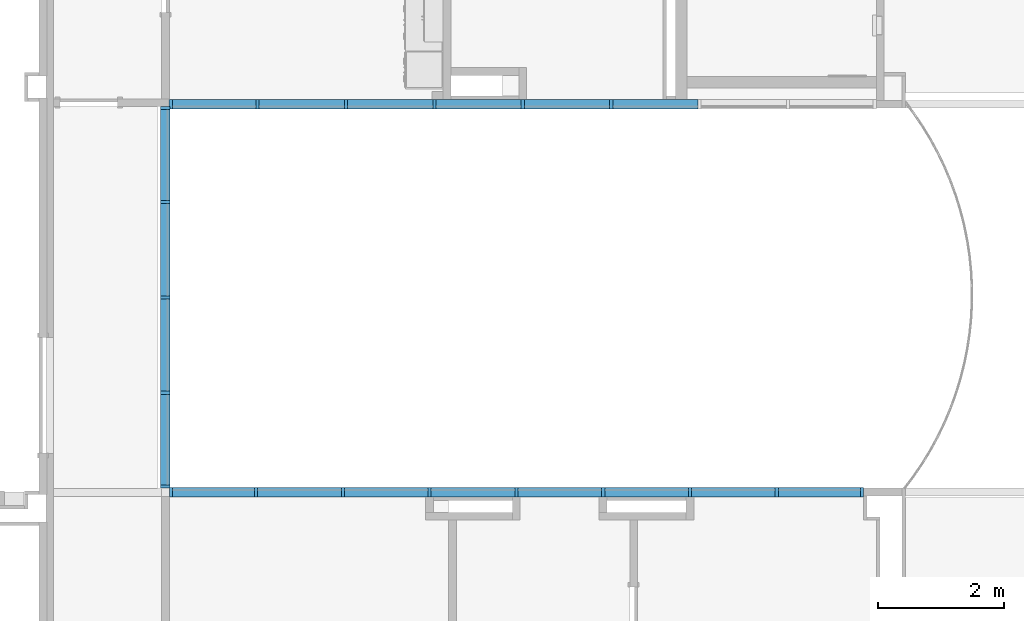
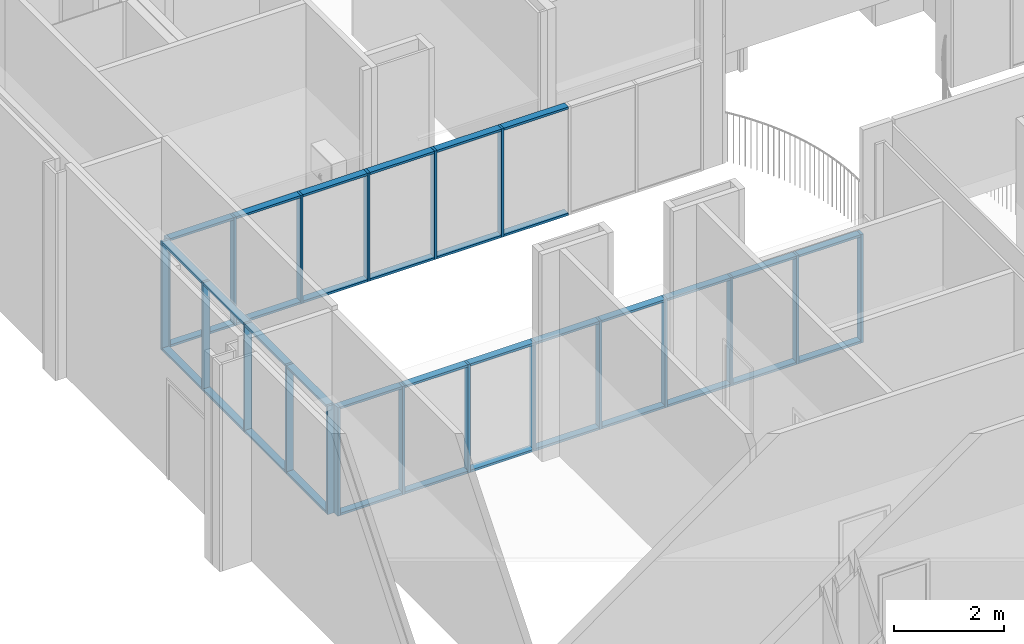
# One storey, part 1 of 47: 56 members, 3 elements without a shape of their own.
"""IFC2X3 building model written with IfcOpenShell, lengths in metres."""

import ifcopenshell
import ifcopenshell.guid

model = None  # the IFC model being written
_history = None  # IfcOwnerHistory: only IFC2X3 demands one
_inside = {}  # id of a spatial element -> (the spatial element, [elements in it])
_under = {}  # id of a project, library or spatial element -> (it, [spatial elements below it])
_declared = {}  # id of a project -> (the project, [libraries it declares])
_typed = {}  # id of a type object -> (the type object, [elements of that type])
_made_of = {}  # id of a material, layer set ... -> (it, [elements and type objects made of it])


def new_model(schema):
    """Start an empty IFC model of exactly this schema.

    Asked for "IFC4X3", IfcOpenShell would pick the latest addendum, in which some entities
    have other attributes; the version numbers below select the first issue.
    IFC2X3 requires an IfcOwnerHistory on every rooted entity: one is made here for all.
    """
    global model, _history
    if schema == "IFC4X3":
        model = ifcopenshell.file(schema_version=(4, 3, 0, 0))
    else:
        model = ifcopenshell.file(schema=schema)
    _inside.clear()
    _under.clear()
    _declared.clear()
    _typed.clear()
    _made_of.clear()
    _history = None
    if model.schema == "IFC2X3":
        org = make("IfcOrganization", Name="unknown")
        user = make(
            "IfcPersonAndOrganization",
            ThePerson=make("IfcPerson", FamilyName="unknown"),
            TheOrganization=org,
        )
        app = make(
            "IfcApplication",
            ApplicationDeveloper=org,
            Version="unknown",
            ApplicationFullName="unknown",
            ApplicationIdentifier="unknown",
        )
        _history = make(
            "IfcOwnerHistory",
            OwningUser=user,
            OwningApplication=app,
            ChangeAction="ADDED",
            CreationDate=0,
        )
    return model


def make(cls, **values):
    """One entity of the class cls with the attributes given. An attribute that is None is left unset."""
    return model.create_entity(
        cls, **{name: value for name, value in values.items() if value is not None}
    )


def entity(cls, *values):
    """Any entity or typed value of the class cls, its attributes in the order of the schema. None: left unset."""
    e = model.create_entity(cls)
    for i, value in enumerate(values):
        if value is not None:
            e[i] = value
    return e


def rooted(cls, **values):
    """An entity with a GlobalId (a new one), such as an element, a storey or a relation."""
    return make(cls, GlobalId=ifcopenshell.guid.new(), OwnerHistory=_history, **values)


def si_unit(unit_type, name, prefix=None):
    """IfcSIUnit, for example si_unit("LENGTHUNIT", "METRE", prefix="MILLI")."""
    return make("IfcSIUnit", UnitType=unit_type, Prefix=prefix, Name=name)


def converted_unit(unit_type, name, factor, base, dimensions=None, offset=None):
    """IfcConversionBasedUnit, such as the inch: factor (a typed value) times the base unit."""
    return make(
        "IfcConversionBasedUnit"
        if offset is None
        else "IfcConversionBasedUnitWithOffset",
        ConversionOffset=offset,
        Dimensions=None
        if dimensions is None
        else entity("IfcDimensionalExponents", *dimensions),
        UnitType=unit_type,
        Name=name,
        ConversionFactor=make(
            "IfcMeasureWithUnit", ValueComponent=factor, UnitComponent=base
        ),
    )


def assignment(units):
    """IfcUnitAssignment: the units of a project."""
    return None if units is None else make("IfcUnitAssignment", Units=units)


def point(xyz):
    """IfcCartesianPoint."""
    return None if xyz is None else make("IfcCartesianPoint", Coordinates=xyz)


def direction(xyz):
    """IfcDirection."""
    return None if xyz is None else make("IfcDirection", DirectionRatios=xyz)


def frame(location, z_axis=None, x_axis=None):
    """IfcAxis2Placement3D, a coordinate frame: its origin and axes. An axis left out is left unset."""
    return make(
        "IfcAxis2Placement3D",
        Location=point(location),
        Axis=direction(z_axis),
        RefDirection=direction(x_axis),
    )


def frame_2d(location, x_axis=None):
    """IfcAxis2Placement2D, a coordinate frame in the plane: its origin and x axis."""
    return make(
        "IfcAxis2Placement2D", Location=point(location), RefDirection=direction(x_axis)
    )


def origin():
    """The frame at (0, 0, 0) with its axes left unset."""
    return frame((0.0, 0.0, 0.0))


def origin_2d_with_axis():
    """The frame at (0, 0) in the plane with the x axis (1, 0) written out."""
    return frame_2d((0.0, 0.0), x_axis=(1.0, 0.0))


def place(relative_to, where):
    """IfcLocalPlacement: puts the frame where relative to a parent placement (None: the world)."""
    return make(
        "IfcLocalPlacement", PlacementRelTo=relative_to, RelativePlacement=where
    )


def context(
    kind, dimensions, precision=None, world=None, true_north=None, identifier=None
):
    """IfcGeometricRepresentationContext, for example the 3D "Model" context."""
    return make(
        "IfcGeometricRepresentationContext",
        ContextIdentifier=identifier,
        ContextType=kind,
        CoordinateSpaceDimension=dimensions,
        Precision=precision,
        WorldCoordinateSystem=world,
        TrueNorth=true_north,
    )


def project(units=None, contexts=None):
    """IfcProject with its units and contexts."""
    return rooted(
        "IfcProject",
        Name="project",
        RepresentationContexts=contexts,
        UnitsInContext=assignment(units),
    )


def spatial(cls, under=None, at=None, **own):
    """A site, building, storey or space (cls), placed at a placement, below another one or the project."""
    s = rooted(cls, ObjectPlacement=at, **own)
    if under is not None:
        _under.setdefault(under.id(), (under, []))[1].append(s)
    return s


def profile(cls, at=None, kind="AREA", **sizes):
    """A parametric profile (cls). Its sizes go by their IFC names, for example OverallWidth=200.0."""
    return make(cls, ProfileType=kind, Position=at, **sizes)


def rectangle(**sizes):
    """IfcRectangleProfileDef."""
    return profile("IfcRectangleProfileDef", **sizes)


def extrude(swept, where, along, depth):
    """IfcExtrudedAreaSolid: the profile swept, set in the frame where, extruded along a direction by depth."""
    return make(
        "IfcExtrudedAreaSolid",
        SweptArea=swept,
        Position=where,
        ExtrudedDirection=direction(along),
        Depth=depth,
    )


def shape(context_of_items, identifier, shape_type, items):
    """IfcShapeRepresentation: the items that make up one representation, for example the "Body"."""
    return make(
        "IfcShapeRepresentation",
        ContextOfItems=context_of_items,
        RepresentationIdentifier=identifier,
        RepresentationType=shape_type,
        Items=items,
    )


def source(mapping_origin, context_of_items, identifier, shape_type, items):
    """IfcRepresentationMap: a shape defined once, which mapped items show again and again."""
    return make(
        "IfcRepresentationMap",
        MappingOrigin=mapping_origin,
        MappedRepresentation=shape(context_of_items, identifier, shape_type, items),
    )


def transform(
    local_origin,
    x_axis=None,
    y_axis=None,
    z_axis=None,
    scale=None,
    scale2=None,
    scale3=None,
    uniform=True,
):
    """IfcCartesianTransformationOperator3D, or its non-uniform kind. x_axis, y_axis, z_axis: its Axis1, 2, 3."""
    if uniform:
        return make(
            "IfcCartesianTransformationOperator3D",
            Axis1=direction(x_axis),
            Axis2=direction(y_axis),
            LocalOrigin=point(local_origin),
            Scale=scale,
            Axis3=direction(z_axis),
        )
    return make(
        "IfcCartesianTransformationOperator3DnonUniform",
        Axis1=direction(x_axis),
        Axis2=direction(y_axis),
        LocalOrigin=point(local_origin),
        Scale=scale,
        Axis3=direction(z_axis),
        Scale2=scale2,
        Scale3=scale3,
    )


def mapped(mapping_source, mapping_target):
    """IfcMappedItem: shows the shape of a source again, moved by a transform."""
    return make(
        "IfcMappedItem", MappingSource=mapping_source, MappingTarget=mapping_target
    )


def material(Name=None, Category=None):
    """IfcMaterial."""
    return make("IfcMaterial", Name=Name, Category=Category)


def made_of(thing, what):
    """Note that an element or type object is made of a material, layer set ...; save() writes the relation."""
    if what is not None:
        _made_of.setdefault(what.id(), (what, []))[1].append(thing)
    return thing


def type_object(cls, material=None, **own):
    """A type object (cls), such as IfcWallType, which elements share."""
    return made_of(rooted(cls, **own), material)


def type_shapes(of_type, sources):
    """Give a type object the sources (RepresentationMaps) that its elements show as mapped items."""
    of_type.RepresentationMaps = sources


def element(
    cls,
    number,
    at=None,
    inside=None,
    cuts=None,
    type_object=None,
    material=None,
    context=None,
    identifier="Body",
    shape_type=None,
    held_by="IfcProductDefinitionShape",
    body=None,
    shapes=None,
    **own,
):
    """One element of the class cls, such as IfcWall. Its Tag is "e" and its number.

    at: its placement. inside: the storey or other place that contains it. cuts: it is an
    opening in that element (IfcRelVoidsElement). A single representation is given by context,
    identifier, shape_type and body (its items); several are given by shapes. held_by: the class
    of the entity that holds the representations. save() writes the other relations.
    """
    e = rooted(cls, Tag="e%d" % number, ObjectPlacement=at, **own)
    if body is not None:
        shapes = [shape(context, identifier, shape_type, body)]
    if shapes is not None:
        e.Representation = make(held_by, Representations=shapes)
    if inside is not None:
        _inside.setdefault(inside.id(), (inside, []))[1].append(e)
    if cuts is not None:
        rooted(
            "IfcRelVoidsElement", RelatingBuildingElement=cuts, RelatedOpeningElement=e
        )
    if type_object is not None:
        _typed.setdefault(type_object.id(), (type_object, []))[1].append(e)
    return made_of(e, material)


def aggregate(whole, parts):
    """IfcRelAggregates: a whole, such as a stair, and the parts it consists of."""
    return rooted("IfcRelAggregates", RelatingObject=whole, RelatedObjects=parts)


def save(model, path):
    """Write the relations noted so far, then the file.

    IfcRelAggregates (storeys below a building ...), IfcRelContainedInSpatialStructure (elements
    in a storey), IfcRelDefinesByType, IfcRelAssociatesMaterial and IfcRelDeclares: one each for
    every whole, place, type object, material and project.
    """
    for whole, parts in _under.values():
        aggregate(whole, parts)
    for where, things in _inside.values():
        rooted(
            "IfcRelContainedInSpatialStructure",
            RelatedElements=things,
            RelatingStructure=where,
        )
    for kind, things in _typed.values():
        rooted("IfcRelDefinesByType", RelatedObjects=things, RelatingType=kind)
    for what, things in _made_of.values():
        rooted("IfcRelAssociatesMaterial", RelatedObjects=things, RelatingMaterial=what)
    for by, libraries in _declared.values():
        rooted("IfcRelDeclares", RelatingContext=by, RelatedDefinitions=libraries)
    model.write(path)


model = new_model("IFC2X3")

# Units and contexts
model_context = context("Model", 3, precision=1e-09, world=origin())
plan_context = context("Plan", 3, precision=1e-09, world=origin())
ifc_project = project(units=[si_unit("LENGTHUNIT", "METRE"), si_unit("AREAUNIT", "SQUARE_METRE"), si_unit("VOLUMEUNIT", "CUBIC_METRE"), converted_unit("PLANEANGLEUNIT", "DEGREE", entity("IfcRatioMeasure", 0.01745329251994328), si_unit("PLANEANGLEUNIT", "RADIAN"), dimensions=[0, 0, 0, 0, 0, 0, 0]), si_unit("TIMEUNIT", "SECOND")], contexts=[model_context, plan_context])

# Site, building, storey
site_placement = place(None, origin())
site = spatial("IfcSite", under=ifc_project, at=site_placement, Name="Default", CompositionType="ELEMENT")
building_placement = place(site_placement, origin())
building = spatial("IfcBuilding", under=site, at=building_placement, CompositionType="ELEMENT")
storey_placement = place(building_placement, frame((0.0, 0.0, 4.570000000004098)))
storey = spatial("IfcBuildingStorey", under=building, at=storey_placement, Name="Second Floor", CompositionType="ELEMENT", Elevation=4.570000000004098)

# Curtain wall, members
curtain_wall_1_placement = place(storey_placement, origin())
curtain_wall_1 = element("IfcCurtainWall", 1, at=curtain_wall_1_placement, inside=storey, Name="Curtain Wall:Storefront", ObjectType="Curtain Wall:Storefront")
ifc_material = material(Name="Metal - Aluminium")
member_type_1 = type_object("IfcMemberType", Name="50 x 150mm", PredefinedType="MULLION")
shared_shape_1 = source(origin(), model_context, "Body", "SweptSolid", [
    extrude(rectangle(XDim=0.05, YDim=0.15, at=origin_2d_with_axis()), frame((-0.025, 0.0, -1.436041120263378), z_axis=(0.0, 0.0, 1.0), x_axis=(-1.0, 0.0, 0.0)), (0.0, 0.0, 1.0), 1.436041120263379),
])
type_shapes(member_type_1, [shared_shape_1])
member_1_placement = place(storey_placement, frame((-31.55100000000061, 28.74019840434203, 2.399999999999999), z_axis=(0.0, -1.0, 0.0), x_axis=(0.0, 0.0, 1.0)))
member_1 = element("IfcMember", 2, at=member_1_placement, type_object=member_type_1, material=ifc_material, Name="Rectangular Mullion:50 x 150mm:50 x 150mm", ObjectType="50 x 150mm", context=model_context, shape_type="MappedRepresentation", body=[
    mapped(shared_shape_1, transform((0.0, 0.0, 0.0), scale=1.0)),
])
member_2_placement = place(storey_placement, frame((-31.55100000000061, 33.24832176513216, 2.399999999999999), z_axis=(0.0, -1.0, 0.0), x_axis=(0.0, 0.0, 1.0)))
member_2 = element("IfcMember", 3, at=member_2_placement, type_object=member_type_1, material=ifc_material, Name="Rectangular Mullion:50 x 150mm:50 x 150mm", ObjectType="50 x 150mm", context=model_context, shape_type="MappedRepresentation", body=[
    mapped(shared_shape_1, transform((0.0, 0.0, 0.0), scale=1.0)),
])
member_type_2 = type_object("IfcMemberType", Name="50 x 150mm", PredefinedType="MULLION")
shared_shape_2 = source(origin(), model_context, "Body", "SweptSolid", [
    extrude(rectangle(XDim=0.05, YDim=0.15, at=origin_2d_with_axis()), frame((-0.025, 0.0, -1.436041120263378), z_axis=(0.0, 0.0, 1.0), x_axis=(-1.0, 0.0, 0.0)), (0.0, 0.0, 1.0), 1.436041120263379),
])
type_shapes(member_type_2, [shared_shape_2])
member_3_placement = place(storey_placement, frame((-31.5510000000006, 34.68436288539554, 0.0), z_axis=(0.0, 1.0, 0.0), x_axis=(0.0, 0.0, -1.0)))
member_3 = element("IfcMember", 4, at=member_3_placement, type_object=member_type_2, material=ifc_material, Name="Rectangular Mullion:50 x 150mm:50 x 150mm", ObjectType="50 x 150mm", context=model_context, shape_type="MappedRepresentation", body=[
    mapped(shared_shape_2, transform((0.0, 0.0, 0.0), scale=1.0)),
])
member_4_placement = place(storey_placement, frame((-31.55100000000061, 30.17623952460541, 0.0), z_axis=(0.0, 1.0, 0.0), x_axis=(0.0, 0.0, -1.0)))
member_4 = element("IfcMember", 5, at=member_4_placement, type_object=member_type_2, material=ifc_material, Name="Rectangular Mullion:50 x 150mm:50 x 150mm", ObjectType="50 x 150mm", context=model_context, shape_type="MappedRepresentation", body=[
    mapped(shared_shape_2, transform((0.0, 0.0, 0.0), scale=1.0)),
])
member_type_3 = type_object("IfcMemberType", Name="50 x 150mm", PredefinedType="MULLION")
shared_shape_3 = source(origin(), model_context, "Body", "SweptSolid", [
    extrude(rectangle(XDim=0.05, YDim=0.15, at=origin_2d_with_axis()), frame((-0.025, 0.0, -2.399999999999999), z_axis=(0.0, 0.0, 1.0), x_axis=(-1.0, 0.0, 0.0)), (0.0, 0.0, 1.0), 2.399999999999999),
])
type_shapes(member_type_3, [shared_shape_3])
member_5_placement = place(storey_placement, frame((-31.55100000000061, 28.69019840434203, 0.0), z_axis=(0.0, 0.0, -1.0), x_axis=(0.0, -1.0, 0.0)))
member_5 = element("IfcMember", 6, at=member_5_placement, type_object=member_type_3, material=ifc_material, Name="Rectangular Mullion:50 x 150mm:50 x 150mm", ObjectType="50 x 150mm", context=model_context, shape_type="MappedRepresentation", body=[
    mapped(shared_shape_3, transform((0.0, 0.0, 0.0), scale=1.0)),
])

# Curtain wall, member
curtain_wall_2_placement = place(storey_placement, origin())
curtain_wall_2 = element("IfcCurtainWall", 7, at=curtain_wall_2_placement, inside=storey, Name="Curtain Wall:Storefront", ObjectType="Curtain Wall:Storefront")
member_6_placement = place(storey_placement, frame((-31.48900000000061, 34.77180159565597, 0.0), z_axis=(0.0, 0.0, -1.0), x_axis=(-1.0, 0.0, 0.0)))
member_6 = element("IfcMember", 8, at=member_6_placement, type_object=member_type_3, material=ifc_material, Name="Rectangular Mullion:50 x 150mm:50 x 150mm", ObjectType="50 x 150mm", context=model_context, shape_type="MappedRepresentation", body=[
    mapped(shared_shape_3, transform((0.0, 0.0, 0.0), scale=1.0)),
])

# Member
member_type_4 = type_object("IfcMemberType", Name="50 x 150mm", PredefinedType="MULLION")
shared_shape_4 = source(origin(), model_context, "Body", "SweptSolid", [
    extrude(rectangle(XDim=0.05, YDim=0.15, at=origin_2d_with_axis()), frame((-0.025, 0.0, -2.399999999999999), z_axis=(0.0, 0.0, 1.0), x_axis=(-1.0, 0.0, 0.0)), (0.0, 0.0, 1.0), 2.399999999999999),
])
type_shapes(member_type_4, [shared_shape_4])
member_7_placement = place(storey_placement, frame((-31.5510000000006, 34.73436288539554, 2.399999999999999), z_axis=(0.0, 0.0, 1.0), x_axis=(0.0, 1.0, 0.0)))
member_7 = element("IfcMember", 9, at=member_7_placement, type_object=member_type_4, material=ifc_material, Name="Rectangular Mullion:50 x 150mm:50 x 150mm", ObjectType="50 x 150mm", context=model_context, shape_type="MappedRepresentation", body=[
    mapped(shared_shape_4, transform((0.0, 0.0, 0.0), scale=1.0)),
])

member_type_5 = type_object("IfcMemberType", Name="50 x 150mm", PredefinedType="MULLION")
shared_shape_5 = source(origin(), model_context, "Body", "SweptSolid", [
    extrude(rectangle(XDim=0.05, YDim=0.15, at=origin_2d_with_axis()), frame((-0.025, 0.0, -1.461041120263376), z_axis=(0.0, 0.0, 1.0), x_axis=(-1.0, 0.0, 0.0)), (0.0, 0.0, 1.0), 1.461041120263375),
])
type_shapes(member_type_5, [shared_shape_5])
member_8_placement = place(storey_placement, frame((-31.55100000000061, 31.73728064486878, 2.399999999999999), z_axis=(0.0, -1.0, 0.0), x_axis=(0.0, 0.0, 1.0)))
member_8 = element("IfcMember", 10, at=member_8_placement, type_object=member_type_5, material=ifc_material, Name="Rectangular Mullion:50 x 150mm:50 x 150mm", ObjectType="50 x 150mm", context=model_context, shape_type="MappedRepresentation", body=[
    mapped(shared_shape_5, transform((0.0, 0.0, 0.0), scale=1.0)),
])

member_9_placement = place(storey_placement, frame((-31.55100000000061, 30.2262395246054, 2.399999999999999), z_axis=(0.0, -1.0, 0.0), x_axis=(0.0, 0.0, 1.0)))
member_9 = element("IfcMember", 11, at=member_9_placement, type_object=member_type_5, material=ifc_material, Name="Rectangular Mullion:50 x 150mm:50 x 150mm", ObjectType="50 x 150mm", context=model_context, shape_type="MappedRepresentation", body=[
    mapped(shared_shape_5, transform((0.0, 0.0, 0.0), scale=1.0)),
])

member_type_6 = type_object("IfcMemberType", Name="50 x 150mm", PredefinedType="MULLION")
shared_shape_6 = source(origin(), model_context, "Body", "SweptSolid", [
    extrude(rectangle(XDim=0.05, YDim=0.15, at=origin_2d_with_axis()), frame((-0.025, 0.0, -1.461041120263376), z_axis=(0.0, 0.0, 1.0), x_axis=(-1.0, 0.0, 0.0)), (0.0, 0.0, 1.0), 1.461041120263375),
])
type_shapes(member_type_6, [shared_shape_6])
member_10_placement = place(storey_placement, frame((-31.55100000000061, 33.19832176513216, 0.0), z_axis=(0.0, 1.0, 0.0), x_axis=(0.0, 0.0, -1.0)))
member_10 = element("IfcMember", 12, at=member_10_placement, type_object=member_type_6, material=ifc_material, Name="Rectangular Mullion:50 x 150mm:50 x 150mm", ObjectType="50 x 150mm", context=model_context, shape_type="MappedRepresentation", body=[
    mapped(shared_shape_6, transform((0.0, 0.0, 0.0), scale=1.0)),
])

member_11_placement = place(storey_placement, frame((-31.55100000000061, 31.68728064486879, 0.0), z_axis=(0.0, 1.0, 0.0), x_axis=(0.0, 0.0, -1.0)))
member_11 = element("IfcMember", 13, at=member_11_placement, type_object=member_type_6, material=ifc_material, Name="Rectangular Mullion:50 x 150mm:50 x 150mm", ObjectType="50 x 150mm", context=model_context, shape_type="MappedRepresentation", body=[
    mapped(shared_shape_6, transform((0.0, 0.0, 0.0), scale=1.0)),
])

member_type_7 = type_object("IfcMemberType", Name="50 x 150mm", PredefinedType="MULLION")
shared_shape_7 = source(origin(), model_context, "Body", "SweptSolid", [
    extrude(rectangle(XDim=0.05, YDim=0.15, at=origin_2d_with_axis()), frame((0.0, 0.0, -2.399999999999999), z_axis=(0.0, 0.0, 1.0), x_axis=(-1.0, 0.0, 0.0)), (0.0, 0.0, 1.0), 2.399999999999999),
])
type_shapes(member_type_7, [shared_shape_7])
member_12_placement = place(storey_placement, frame((-31.55100000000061, 33.22332176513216, 0.0), z_axis=(0.0, 0.0, -1.0), x_axis=(0.0, -1.0, 0.0)))
member_12 = element("IfcMember", 14, at=member_12_placement, type_object=member_type_7, material=ifc_material, Name="Rectangular Mullion:50 x 150mm:50 x 150mm", ObjectType="50 x 150mm", context=model_context, shape_type="MappedRepresentation", body=[
    mapped(shared_shape_7, transform((0.0, 0.0, 0.0), scale=1.0)),
])

member_13_placement = place(storey_placement, frame((-31.55100000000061, 31.71228064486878, 0.0), z_axis=(0.0, 0.0, -1.0), x_axis=(0.0, -1.0, 0.0)))
member_13 = element("IfcMember", 15, at=member_13_placement, type_object=member_type_7, material=ifc_material, Name="Rectangular Mullion:50 x 150mm:50 x 150mm", ObjectType="50 x 150mm", context=model_context, shape_type="MappedRepresentation", body=[
    mapped(shared_shape_7, transform((0.0, 0.0, 0.0), scale=1.0)),
])

member_14_placement = place(storey_placement, frame((-31.55100000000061, 30.20123952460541, 0.0), z_axis=(0.0, 0.0, -1.0), x_axis=(0.0, -1.0, 0.0)))
member_14 = element("IfcMember", 16, at=member_14_placement, type_object=member_type_7, material=ifc_material, Name="Rectangular Mullion:50 x 150mm:50 x 150mm", ObjectType="50 x 150mm", context=model_context, shape_type="MappedRepresentation", body=[
    mapped(shared_shape_7, transform((0.0, 0.0, 0.0), scale=1.0)),
])

aggregate(curtain_wall_1, [member_1, member_3, member_5, member_7, member_2, member_8, member_9, member_10, member_11, member_4, member_12, member_13, member_14])

member_15_placement = place(storey_placement, frame((-24.48962500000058, 34.77180159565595, 0.0), z_axis=(0.0, 0.0, -1.0), x_axis=(-1.0, 0.0, 0.0)))
member_15 = element("IfcMember", 17, at=member_15_placement, type_object=member_type_7, material=ifc_material, Name="Rectangular Mullion:50 x 150mm:50 x 150mm", ObjectType="50 x 150mm", context=model_context, shape_type="MappedRepresentation", body=[
    mapped(shared_shape_7, transform((0.0, 0.0, 0.0), scale=1.0)),
])

member_16_placement = place(storey_placement, frame((-25.88950000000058, 34.77180159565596, 0.0), z_axis=(0.0, 0.0, -1.0), x_axis=(-1.0, 0.0, 0.0)))
member_16 = element("IfcMember", 18, at=member_16_placement, type_object=member_type_7, material=ifc_material, Name="Rectangular Mullion:50 x 150mm:50 x 150mm", ObjectType="50 x 150mm", context=model_context, shape_type="MappedRepresentation", body=[
    mapped(shared_shape_7, transform((0.0, 0.0, 0.0), scale=1.0)),
])

member_17_placement = place(storey_placement, frame((-27.28937500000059, 34.77180159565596, 0.0), z_axis=(0.0, 0.0, -1.0), x_axis=(-1.0, 0.0, 0.0)))
member_17 = element("IfcMember", 19, at=member_17_placement, type_object=member_type_7, material=ifc_material, Name="Rectangular Mullion:50 x 150mm:50 x 150mm", ObjectType="50 x 150mm", context=model_context, shape_type="MappedRepresentation", body=[
    mapped(shared_shape_7, transform((0.0, 0.0, 0.0), scale=1.0)),
])

member_18_placement = place(storey_placement, frame((-28.6892500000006, 34.77180159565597, 0.0), z_axis=(0.0, 0.0, -1.0), x_axis=(-1.0, 0.0, 0.0)))
member_18 = element("IfcMember", 20, at=member_18_placement, type_object=member_type_7, material=ifc_material, Name="Rectangular Mullion:50 x 150mm:50 x 150mm", ObjectType="50 x 150mm", context=model_context, shape_type="MappedRepresentation", body=[
    mapped(shared_shape_7, transform((0.0, 0.0, 0.0), scale=1.0)),
])

member_19_placement = place(storey_placement, frame((-30.0891250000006, 34.77180159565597, 0.0), z_axis=(0.0, 0.0, -1.0), x_axis=(-1.0, 0.0, 0.0)))
member_19 = element("IfcMember", 21, at=member_19_placement, type_object=member_type_7, material=ifc_material, Name="Rectangular Mullion:50 x 150mm:50 x 150mm", ObjectType="50 x 150mm", context=model_context, shape_type="MappedRepresentation", body=[
    mapped(shared_shape_7, transform((0.0, 0.0, 0.0), scale=1.0)),
])

member_type_8 = type_object("IfcMemberType", Name="50 x 150mm", PredefinedType="MULLION")
shared_shape_8 = source(origin(), model_context, "Body", "SweptSolid", [
    extrude(rectangle(XDim=0.05, YDim=0.15, at=origin_2d_with_axis()), frame((-0.025, 0.0, -1.324875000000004), z_axis=(0.0, 0.0, 1.0), x_axis=(-1.0, 0.0, 0.0)), (0.0, 0.0, 1.0), 1.324875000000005),
])
type_shapes(member_type_8, [shared_shape_8])
member_20_placement = place(storey_placement, frame((-31.4390000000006, 34.77180159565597, 2.399999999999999), z_axis=(-1.0, 0.0, 0.0), x_axis=(0.0, 0.0, 1.0)))
member_20 = element("IfcMember", 22, at=member_20_placement, type_object=member_type_8, material=ifc_material, Name="Rectangular Mullion:50 x 150mm:50 x 150mm", ObjectType="50 x 150mm", context=model_context, shape_type="MappedRepresentation", body=[
    mapped(shared_shape_8, transform((0.0, 0.0, 0.0), scale=1.0)),
])

member_type_9 = type_object("IfcMemberType", Name="50 x 150mm", PredefinedType="MULLION")
shared_shape_9 = source(origin(), model_context, "Body", "SweptSolid", [
    extrude(rectangle(XDim=0.05, YDim=0.15, at=origin_2d_with_axis()), frame((-0.025, 0.0, -1.324875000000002), z_axis=(0.0, 0.0, 1.0), x_axis=(-1.0, 0.0, 0.0)), (0.0, 0.0, 1.0), 1.324875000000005),
])
type_shapes(member_type_9, [shared_shape_9])
member_21_placement = place(storey_placement, frame((-30.1141250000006, 34.77180159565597, 0.0), z_axis=(1.0, 0.0, 0.0), x_axis=(0.0, 0.0, -1.0)))
member_21 = element("IfcMember", 23, at=member_21_placement, type_object=member_type_9, material=ifc_material, Name="Rectangular Mullion:50 x 150mm:50 x 150mm", ObjectType="50 x 150mm", context=model_context, shape_type="MappedRepresentation", body=[
    mapped(shared_shape_9, transform((0.0, 0.0, 0.0), scale=1.0)),
])

member_type_10 = type_object("IfcMemberType", Name="50 x 150mm", PredefinedType="MULLION")
shared_shape_10 = source(origin(), model_context, "Body", "SweptSolid", [
    extrude(rectangle(XDim=0.05, YDim=0.15, at=origin_2d_with_axis()), frame((-0.025, 0.0, -1.349875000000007), z_axis=(0.0, 0.0, 1.0), x_axis=(-1.0, 0.0, 0.0)), (0.0, 0.0, 1.0), 1.349875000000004),
])
type_shapes(member_type_10, [shared_shape_10])
member_22_placement = place(storey_placement, frame((-24.46462500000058, 34.77180159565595, 2.399999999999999), z_axis=(-1.0, 0.0, 0.0), x_axis=(0.0, 0.0, 1.0)))
member_22 = element("IfcMember", 24, at=member_22_placement, type_object=member_type_10, material=ifc_material, Name="Rectangular Mullion:50 x 150mm:50 x 150mm", ObjectType="50 x 150mm", context=model_context, shape_type="MappedRepresentation", body=[
    mapped(shared_shape_10, transform((0.0, 0.0, 0.0), scale=1.0)),
])

member_23_placement = place(storey_placement, frame((-25.86450000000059, 34.77180159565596, 2.399999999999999), z_axis=(-1.0, 0.0, 0.0), x_axis=(0.0, 0.0, 1.0)))
member_23 = element("IfcMember", 25, at=member_23_placement, type_object=member_type_10, material=ifc_material, Name="Rectangular Mullion:50 x 150mm:50 x 150mm", ObjectType="50 x 150mm", context=model_context, shape_type="MappedRepresentation", body=[
    mapped(shared_shape_10, transform((0.0, 0.0, 0.0), scale=1.0)),
])

member_24_placement = place(storey_placement, frame((-27.26437500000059, 34.77180159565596, 2.399999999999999), z_axis=(-1.0, 0.0, 0.0), x_axis=(0.0, 0.0, 1.0)))
member_24 = element("IfcMember", 26, at=member_24_placement, type_object=member_type_10, material=ifc_material, Name="Rectangular Mullion:50 x 150mm:50 x 150mm", ObjectType="50 x 150mm", context=model_context, shape_type="MappedRepresentation", body=[
    mapped(shared_shape_10, transform((0.0, 0.0, 0.0), scale=1.0)),
])

member_25_placement = place(storey_placement, frame((-28.6642500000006, 34.77180159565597, 2.399999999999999), z_axis=(-1.0, 0.0, 0.0), x_axis=(0.0, 0.0, 1.0)))
member_25 = element("IfcMember", 27, at=member_25_placement, type_object=member_type_10, material=ifc_material, Name="Rectangular Mullion:50 x 150mm:50 x 150mm", ObjectType="50 x 150mm", context=model_context, shape_type="MappedRepresentation", body=[
    mapped(shared_shape_10, transform((0.0, 0.0, 0.0), scale=1.0)),
])

member_26_placement = place(storey_placement, frame((-30.0641250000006, 34.77180159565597, 2.399999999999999), z_axis=(-1.0, 0.0, 0.0), x_axis=(0.0, 0.0, 1.0)))
member_26 = element("IfcMember", 28, at=member_26_placement, type_object=member_type_10, material=ifc_material, Name="Rectangular Mullion:50 x 150mm:50 x 150mm", ObjectType="50 x 150mm", context=model_context, shape_type="MappedRepresentation", body=[
    mapped(shared_shape_10, transform((0.0, 0.0, 0.0), scale=1.0)),
])

member_type_11 = type_object("IfcMemberType", Name="50 x 150mm", PredefinedType="MULLION")
shared_shape_11 = source(origin(), model_context, "Body", "SweptSolid", [
    extrude(rectangle(XDim=0.05, YDim=0.15, at=origin_2d_with_axis()), frame((-0.025, 0.0, -1.349875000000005), z_axis=(0.0, 0.0, 1.0), x_axis=(-1.0, 0.0, 0.0)), (0.0, 0.0, 1.0), 1.349875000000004),
])
type_shapes(member_type_11, [shared_shape_11])
member_27_placement = place(storey_placement, frame((-23.11475000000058, 34.77180159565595, 0.0), z_axis=(1.0, 0.0, 0.0), x_axis=(0.0, 0.0, -1.0)))
member_27 = element("IfcMember", 29, at=member_27_placement, type_object=member_type_11, material=ifc_material, Name="Rectangular Mullion:50 x 150mm:50 x 150mm", ObjectType="50 x 150mm", context=model_context, shape_type="MappedRepresentation", body=[
    mapped(shared_shape_11, transform((0.0, 0.0, 0.0), scale=1.0)),
])

member_28_placement = place(storey_placement, frame((-24.51462500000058, 34.77180159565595, 0.0), z_axis=(1.0, 0.0, 0.0), x_axis=(0.0, 0.0, -1.0)))
member_28 = element("IfcMember", 30, at=member_28_placement, type_object=member_type_11, material=ifc_material, Name="Rectangular Mullion:50 x 150mm:50 x 150mm", ObjectType="50 x 150mm", context=model_context, shape_type="MappedRepresentation", body=[
    mapped(shared_shape_11, transform((0.0, 0.0, 0.0), scale=1.0)),
])

member_29_placement = place(storey_placement, frame((-25.91450000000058, 34.77180159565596, 0.0), z_axis=(1.0, 0.0, 0.0), x_axis=(0.0, 0.0, -1.0)))
member_29 = element("IfcMember", 31, at=member_29_placement, type_object=member_type_11, material=ifc_material, Name="Rectangular Mullion:50 x 150mm:50 x 150mm", ObjectType="50 x 150mm", context=model_context, shape_type="MappedRepresentation", body=[
    mapped(shared_shape_11, transform((0.0, 0.0, 0.0), scale=1.0)),
])

member_30_placement = place(storey_placement, frame((-27.31437500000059, 34.77180159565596, 0.0), z_axis=(1.0, 0.0, 0.0), x_axis=(0.0, 0.0, -1.0)))
member_30 = element("IfcMember", 32, at=member_30_placement, type_object=member_type_11, material=ifc_material, Name="Rectangular Mullion:50 x 150mm:50 x 150mm", ObjectType="50 x 150mm", context=model_context, shape_type="MappedRepresentation", body=[
    mapped(shared_shape_11, transform((0.0, 0.0, 0.0), scale=1.0)),
])

member_31_placement = place(storey_placement, frame((-28.71425000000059, 34.77180159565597, 0.0), z_axis=(1.0, 0.0, 0.0), x_axis=(0.0, 0.0, -1.0)))
member_31 = element("IfcMember", 33, at=member_31_placement, type_object=member_type_11, material=ifc_material, Name="Rectangular Mullion:50 x 150mm:50 x 150mm", ObjectType="50 x 150mm", context=model_context, shape_type="MappedRepresentation", body=[
    mapped(shared_shape_11, transform((0.0, 0.0, 0.0), scale=1.0)),
])

aggregate(curtain_wall_2, [member_20, member_6, member_22, member_23, member_24, member_25, member_26, member_27, member_28, member_29, member_30, member_31, member_21, member_15, member_16, member_17, member_18, member_19])

# Curtain wall, members
curtain_wall_3_placement = place(storey_placement, origin())
curtain_wall_3 = element("IfcCurtainWall", 34, at=curtain_wall_3_placement, inside=storey, Name="Curtain Wall:Storefront", ObjectType="Curtain Wall:Storefront")
member_type_12 = type_object("IfcMemberType", Name="50 x 150mm", PredefinedType="MULLION")
shared_shape_12 = source(origin(), model_context, "Body", "SweptSolid", [
    extrude(rectangle(XDim=0.05, YDim=0.15, at=origin_2d_with_axis()), frame((-0.025, 0.0, -1.298874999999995), z_axis=(0.0, 0.0, 1.0), x_axis=(-1.0, 0.0, 0.0)), (0.0, 0.0, 1.0), 1.298874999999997),
])
type_shapes(member_type_12, [shared_shape_12])
member_32_placement = place(storey_placement, frame((-31.43600000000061, 28.62819840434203, 2.399999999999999), z_axis=(-1.0, 0.0, 0.0), x_axis=(0.0, 0.0, 1.0)))
member_32 = element("IfcMember", 35, at=member_32_placement, type_object=member_type_12, material=ifc_material, Name="Rectangular Mullion:50 x 150mm:50 x 150mm", ObjectType="50 x 150mm", context=model_context, shape_type="MappedRepresentation", body=[
    mapped(shared_shape_12, transform((0.0, 0.0, 0.0), scale=1.0)),
])
member_33_placement = place(storey_placement, frame((-21.84387500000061, 28.62819840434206, 2.399999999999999), z_axis=(-1.0, 0.0, 0.0), x_axis=(0.0, 0.0, 1.0)))
member_33 = element("IfcMember", 36, at=member_33_placement, type_object=member_type_12, material=ifc_material, Name="Rectangular Mullion:50 x 150mm:50 x 150mm", ObjectType="50 x 150mm", context=model_context, shape_type="MappedRepresentation", body=[
    mapped(shared_shape_12, transform((0.0, 0.0, 0.0), scale=1.0)),
])
member_type_13 = type_object("IfcMemberType", Name="50 x 150mm", PredefinedType="MULLION")
shared_shape_13 = source(origin(), model_context, "Body", "SweptSolid", [
    extrude(rectangle(XDim=0.05, YDim=0.15, at=origin_2d_with_axis()), frame((-0.025, 0.0, -1.298875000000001), z_axis=(0.0, 0.0, 1.0), x_axis=(-1.0, 0.0, 0.0)), (0.0, 0.0, 1.0), 1.298875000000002),
])
type_shapes(member_type_13, [shared_shape_13])
member_34_placement = place(storey_placement, frame((-20.54500000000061, 28.62819840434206, 0.0), z_axis=(1.0, 0.0, 0.0), x_axis=(0.0, 0.0, -1.0)))
member_34 = element("IfcMember", 37, at=member_34_placement, type_object=member_type_13, material=ifc_material, Name="Rectangular Mullion:50 x 150mm:50 x 150mm", ObjectType="50 x 150mm", context=model_context, shape_type="MappedRepresentation", body=[
    mapped(shared_shape_13, transform((0.0, 0.0, 0.0), scale=1.0)),
])
member_35_placement = place(storey_placement, frame((-30.13712500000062, 28.62819840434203, 0.0), z_axis=(1.0, 0.0, 0.0), x_axis=(0.0, 0.0, -1.0)))
member_35 = element("IfcMember", 38, at=member_35_placement, type_object=member_type_13, material=ifc_material, Name="Rectangular Mullion:50 x 150mm:50 x 150mm", ObjectType="50 x 150mm", context=model_context, shape_type="MappedRepresentation", body=[
    mapped(shared_shape_13, transform((0.0, 0.0, 0.0), scale=1.0)),
])
member_type_14 = type_object("IfcMemberType", Name="50 x 150mm", PredefinedType="MULLION")
shared_shape_14 = source(origin(), model_context, "Body", "SweptSolid", [
    extrude(rectangle(XDim=0.05, YDim=0.15, at=origin_2d_with_axis()), frame((-0.025, 0.0, -2.399999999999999), z_axis=(0.0, 0.0, 1.0), x_axis=(-1.0, 0.0, 0.0)), (0.0, 0.0, 1.0), 2.399999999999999),
])
type_shapes(member_type_14, [shared_shape_14])
member_36_placement = place(storey_placement, frame((-31.48600000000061, 28.62819840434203, 0.0), z_axis=(0.0, 0.0, -1.0), x_axis=(-1.0, 0.0, 0.0)))
member_36 = element("IfcMember", 39, at=member_36_placement, type_object=member_type_14, material=ifc_material, Name="Rectangular Mullion:50 x 150mm:50 x 150mm", ObjectType="50 x 150mm", context=model_context, shape_type="MappedRepresentation", body=[
    mapped(shared_shape_14, transform((0.0, 0.0, 0.0), scale=1.0)),
])
member_type_15 = type_object("IfcMemberType", Name="50 x 150mm", PredefinedType="MULLION")
shared_shape_15 = source(origin(), model_context, "Body", "SweptSolid", [
    extrude(rectangle(XDim=0.05, YDim=0.15, at=origin_2d_with_axis()), frame((-0.025, 0.0, -2.399999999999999), z_axis=(0.0, 0.0, 1.0), x_axis=(-1.0, 0.0, 0.0)), (0.0, 0.0, 1.0), 2.399999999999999),
])
type_shapes(member_type_15, [shared_shape_15])
member_37_placement = place(storey_placement, frame((-20.49500000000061, 28.62819840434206, 2.399999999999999)))
member_37 = element("IfcMember", 40, at=member_37_placement, type_object=member_type_15, material=ifc_material, Name="Rectangular Mullion:50 x 150mm:50 x 150mm", ObjectType="50 x 150mm", context=model_context, shape_type="MappedRepresentation", body=[
    mapped(shared_shape_15, transform((0.0, 0.0, 0.0), scale=1.0)),
])
member_type_16 = type_object("IfcMemberType", Name="50 x 150mm", PredefinedType="MULLION")
shared_shape_16 = source(origin(), model_context, "Body", "SweptSolid", [
    extrude(rectangle(XDim=0.05, YDim=0.15, at=origin_2d_with_axis()), frame((-0.025, 0.0, -1.323875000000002), z_axis=(0.0, 0.0, 1.0), x_axis=(-1.0, 0.0, 0.0)), (0.0, 0.0, 1.0), 1.323875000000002),
])
type_shapes(member_type_16, [shared_shape_16])
member_38_placement = place(storey_placement, frame((-23.21775000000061, 28.62819840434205, 2.399999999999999), z_axis=(-1.0, 0.0, 0.0), x_axis=(0.0, 0.0, 1.0)))
member_38 = element("IfcMember", 41, at=member_38_placement, type_object=member_type_16, material=ifc_material, Name="Rectangular Mullion:50 x 150mm:50 x 150mm", ObjectType="50 x 150mm", context=model_context, shape_type="MappedRepresentation", body=[
    mapped(shared_shape_16, transform((0.0, 0.0, 0.0), scale=1.0)),
])
member_39_placement = place(storey_placement, frame((-24.59162500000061, 28.62819840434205, 2.399999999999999), z_axis=(-1.0, 0.0, 0.0), x_axis=(0.0, 0.0, 1.0)))
member_39 = element("IfcMember", 42, at=member_39_placement, type_object=member_type_16, material=ifc_material, Name="Rectangular Mullion:50 x 150mm:50 x 150mm", ObjectType="50 x 150mm", context=model_context, shape_type="MappedRepresentation", body=[
    mapped(shared_shape_16, transform((0.0, 0.0, 0.0), scale=1.0)),
])
member_40_placement = place(storey_placement, frame((-25.96550000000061, 28.62819840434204, 2.399999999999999), z_axis=(-1.0, 0.0, 0.0), x_axis=(0.0, 0.0, 1.0)))
member_40 = element("IfcMember", 43, at=member_40_placement, type_object=member_type_16, material=ifc_material, Name="Rectangular Mullion:50 x 150mm:50 x 150mm", ObjectType="50 x 150mm", context=model_context, shape_type="MappedRepresentation", body=[
    mapped(shared_shape_16, transform((0.0, 0.0, 0.0), scale=1.0)),
])
member_41_placement = place(storey_placement, frame((-27.33937500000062, 28.62819840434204, 2.399999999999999), z_axis=(-1.0, 0.0, 0.0), x_axis=(0.0, 0.0, 1.0)))
member_41 = element("IfcMember", 44, at=member_41_placement, type_object=member_type_16, material=ifc_material, Name="Rectangular Mullion:50 x 150mm:50 x 150mm", ObjectType="50 x 150mm", context=model_context, shape_type="MappedRepresentation", body=[
    mapped(shared_shape_16, transform((0.0, 0.0, 0.0), scale=1.0)),
])
member_42_placement = place(storey_placement, frame((-28.71325000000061, 28.62819840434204, 2.399999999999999), z_axis=(-1.0, 0.0, 0.0), x_axis=(0.0, 0.0, 1.0)))
member_42 = element("IfcMember", 45, at=member_42_placement, type_object=member_type_16, material=ifc_material, Name="Rectangular Mullion:50 x 150mm:50 x 150mm", ObjectType="50 x 150mm", context=model_context, shape_type="MappedRepresentation", body=[
    mapped(shared_shape_16, transform((0.0, 0.0, 0.0), scale=1.0)),
])
member_43_placement = place(storey_placement, frame((-30.08712500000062, 28.62819840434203, 2.399999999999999), z_axis=(-1.0, 0.0, 0.0), x_axis=(0.0, 0.0, 1.0)))
member_43 = element("IfcMember", 46, at=member_43_placement, type_object=member_type_16, material=ifc_material, Name="Rectangular Mullion:50 x 150mm:50 x 150mm", ObjectType="50 x 150mm", context=model_context, shape_type="MappedRepresentation", body=[
    mapped(shared_shape_16, transform((0.0, 0.0, 0.0), scale=1.0)),
])
member_type_17 = type_object("IfcMemberType", Name="50 x 150mm", PredefinedType="MULLION")
shared_shape_17 = source(origin(), model_context, "Body", "SweptSolid", [
    extrude(rectangle(XDim=0.05, YDim=0.15, at=origin_2d_with_axis()), frame((-0.025, 0.0, -1.323875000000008), z_axis=(0.0, 0.0, 1.0), x_axis=(-1.0, 0.0, 0.0)), (0.0, 0.0, 1.0), 1.323875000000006),
])
type_shapes(member_type_17, [shared_shape_17])
member_44_placement = place(storey_placement, frame((-21.89387500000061, 28.62819840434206, 0.0), z_axis=(1.0, 0.0, 0.0), x_axis=(0.0, 0.0, -1.0)))
member_44 = element("IfcMember", 47, at=member_44_placement, type_object=member_type_17, material=ifc_material, Name="Rectangular Mullion:50 x 150mm:50 x 150mm", ObjectType="50 x 150mm", context=model_context, shape_type="MappedRepresentation", body=[
    mapped(shared_shape_17, transform((0.0, 0.0, 0.0), scale=1.0)),
])
member_45_placement = place(storey_placement, frame((-23.26775000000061, 28.62819840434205, 0.0), z_axis=(1.0, 0.0, 0.0), x_axis=(0.0, 0.0, -1.0)))
member_45 = element("IfcMember", 48, at=member_45_placement, type_object=member_type_17, material=ifc_material, Name="Rectangular Mullion:50 x 150mm:50 x 150mm", ObjectType="50 x 150mm", context=model_context, shape_type="MappedRepresentation", body=[
    mapped(shared_shape_17, transform((0.0, 0.0, 0.0), scale=1.0)),
])
member_46_placement = place(storey_placement, frame((-24.64162500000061, 28.62819840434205, 0.0), z_axis=(1.0, 0.0, 0.0), x_axis=(0.0, 0.0, -1.0)))
member_46 = element("IfcMember", 49, at=member_46_placement, type_object=member_type_17, material=ifc_material, Name="Rectangular Mullion:50 x 150mm:50 x 150mm", ObjectType="50 x 150mm", context=model_context, shape_type="MappedRepresentation", body=[
    mapped(shared_shape_17, transform((0.0, 0.0, 0.0), scale=1.0)),
])
member_47_placement = place(storey_placement, frame((-26.0155000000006, 28.62819840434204, 0.0), z_axis=(1.0, 0.0, 0.0), x_axis=(0.0, 0.0, -1.0)))
member_47 = element("IfcMember", 50, at=member_47_placement, type_object=member_type_17, material=ifc_material, Name="Rectangular Mullion:50 x 150mm:50 x 150mm", ObjectType="50 x 150mm", context=model_context, shape_type="MappedRepresentation", body=[
    mapped(shared_shape_17, transform((0.0, 0.0, 0.0), scale=1.0)),
])
member_48_placement = place(storey_placement, frame((-27.38937500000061, 28.62819840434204, 0.0), z_axis=(1.0, 0.0, 0.0), x_axis=(0.0, 0.0, -1.0)))
member_48 = element("IfcMember", 51, at=member_48_placement, type_object=member_type_17, material=ifc_material, Name="Rectangular Mullion:50 x 150mm:50 x 150mm", ObjectType="50 x 150mm", context=model_context, shape_type="MappedRepresentation", body=[
    mapped(shared_shape_17, transform((0.0, 0.0, 0.0), scale=1.0)),
])
member_49_placement = place(storey_placement, frame((-28.76325000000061, 28.62819840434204, 0.0), z_axis=(1.0, 0.0, 0.0), x_axis=(0.0, 0.0, -1.0)))
member_49 = element("IfcMember", 52, at=member_49_placement, type_object=member_type_17, material=ifc_material, Name="Rectangular Mullion:50 x 150mm:50 x 150mm", ObjectType="50 x 150mm", context=model_context, shape_type="MappedRepresentation", body=[
    mapped(shared_shape_17, transform((0.0, 0.0, 0.0), scale=1.0)),
])
member_type_18 = type_object("IfcMemberType", Name="50 x 150mm", PredefinedType="MULLION")
shared_shape_18 = source(origin(), model_context, "Body", "SweptSolid", [
    extrude(rectangle(XDim=0.05, YDim=0.15, at=origin_2d_with_axis()), frame((0.0, 0.0, -2.399999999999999), z_axis=(0.0, 0.0, 1.0), x_axis=(-1.0, 0.0, 0.0)), (0.0, 0.0, 1.0), 2.399999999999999),
])
type_shapes(member_type_18, [shared_shape_18])
member_50_placement = place(storey_placement, frame((-21.86887500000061, 28.62819840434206, 0.0), z_axis=(0.0, 0.0, -1.0), x_axis=(-1.0, 0.0, 0.0)))
member_50 = element("IfcMember", 53, at=member_50_placement, type_object=member_type_18, material=ifc_material, Name="Rectangular Mullion:50 x 150mm:50 x 150mm", ObjectType="50 x 150mm", context=model_context, shape_type="MappedRepresentation", body=[
    mapped(shared_shape_18, transform((0.0, 0.0, 0.0), scale=1.0)),
])
member_51_placement = place(storey_placement, frame((-23.24275000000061, 28.62819840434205, 0.0), z_axis=(0.0, 0.0, -1.0), x_axis=(-1.0, 0.0, 0.0)))
member_51 = element("IfcMember", 54, at=member_51_placement, type_object=member_type_18, material=ifc_material, Name="Rectangular Mullion:50 x 150mm:50 x 150mm", ObjectType="50 x 150mm", context=model_context, shape_type="MappedRepresentation", body=[
    mapped(shared_shape_18, transform((0.0, 0.0, 0.0), scale=1.0)),
])
member_52_placement = place(storey_placement, frame((-24.61662500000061, 28.62819840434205, 0.0), z_axis=(0.0, 0.0, -1.0), x_axis=(-1.0, 0.0, 0.0)))
member_52 = element("IfcMember", 55, at=member_52_placement, type_object=member_type_18, material=ifc_material, Name="Rectangular Mullion:50 x 150mm:50 x 150mm", ObjectType="50 x 150mm", context=model_context, shape_type="MappedRepresentation", body=[
    mapped(shared_shape_18, transform((0.0, 0.0, 0.0), scale=1.0)),
])
member_53_placement = place(storey_placement, frame((-25.99050000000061, 28.62819840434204, 0.0), z_axis=(0.0, 0.0, -1.0), x_axis=(-1.0, 0.0, 0.0)))
member_53 = element("IfcMember", 56, at=member_53_placement, type_object=member_type_18, material=ifc_material, Name="Rectangular Mullion:50 x 150mm:50 x 150mm", ObjectType="50 x 150mm", context=model_context, shape_type="MappedRepresentation", body=[
    mapped(shared_shape_18, transform((0.0, 0.0, 0.0), scale=1.0)),
])
member_54_placement = place(storey_placement, frame((-27.36437500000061, 28.62819840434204, 0.0), z_axis=(0.0, 0.0, -1.0), x_axis=(-1.0, 0.0, 0.0)))
member_54 = element("IfcMember", 57, at=member_54_placement, type_object=member_type_18, material=ifc_material, Name="Rectangular Mullion:50 x 150mm:50 x 150mm", ObjectType="50 x 150mm", context=model_context, shape_type="MappedRepresentation", body=[
    mapped(shared_shape_18, transform((0.0, 0.0, 0.0), scale=1.0)),
])
member_55_placement = place(storey_placement, frame((-28.73825000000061, 28.62819840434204, 0.0), z_axis=(0.0, 0.0, -1.0), x_axis=(-1.0, 0.0, 0.0)))
member_55 = element("IfcMember", 58, at=member_55_placement, type_object=member_type_18, material=ifc_material, Name="Rectangular Mullion:50 x 150mm:50 x 150mm", ObjectType="50 x 150mm", context=model_context, shape_type="MappedRepresentation", body=[
    mapped(shared_shape_18, transform((0.0, 0.0, 0.0), scale=1.0)),
])
member_56_placement = place(storey_placement, frame((-30.11212500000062, 28.62819840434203, 0.0), z_axis=(0.0, 0.0, -1.0), x_axis=(-1.0, 0.0, 0.0)))
member_56 = element("IfcMember", 59, at=member_56_placement, type_object=member_type_18, material=ifc_material, Name="Rectangular Mullion:50 x 150mm:50 x 150mm", ObjectType="50 x 150mm", context=model_context, shape_type="MappedRepresentation", body=[
    mapped(shared_shape_18, transform((0.0, 0.0, 0.0), scale=1.0)),
])
aggregate(curtain_wall_3, [member_32, member_34, member_36, member_37, member_33, member_38, member_39, member_40, member_41, member_42, member_43, member_44, member_45, member_46, member_47, member_48, member_49, member_35, member_50, member_51, member_52, member_53, member_54, member_55, member_56])

save(model, "model.ifc")
